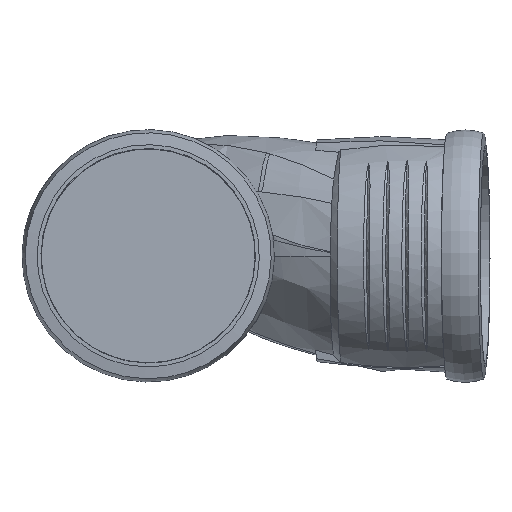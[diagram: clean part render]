
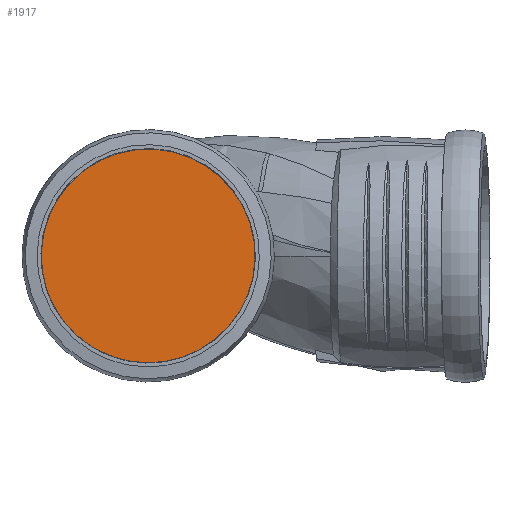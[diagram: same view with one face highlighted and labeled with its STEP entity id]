
A CAD part, top view. The second image highlights one B-rep face of the part: STEP entity #1917.
In plain terms, the highlighted planar face has unit normal (0, 0, 1).
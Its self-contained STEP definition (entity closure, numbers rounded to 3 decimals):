
#95=PLANE('',#2077);
#171=CIRCLE('',#2078,55.5);
#172=CIRCLE('',#2079,55.5);
#348=FACE_OUTER_BOUND('',#472,.T.);
#472=EDGE_LOOP('',(#1524,#1525));
#833=VERTEX_POINT('',#13521);
#834=VERTEX_POINT('',#13522);
#1090=EDGE_CURVE('',#833,#834,#171,.T.);
#1091=EDGE_CURVE('',#834,#833,#172,.T.);
#1524=ORIENTED_EDGE('',*,*,#1090,.T.);
#1525=ORIENTED_EDGE('',*,*,#1091,.T.);
#1917=ADVANCED_FACE('',(#348),#95,.T.);
#2077=AXIS2_PLACEMENT_3D('',#13520,#2334,#2335);
#2078=AXIS2_PLACEMENT_3D('',#13523,#2336,#2337);
#2079=AXIS2_PLACEMENT_3D('',#13524,#2338,#2339);
#2334=DIRECTION('center_axis',(0.,0.,
1.));
#2335=DIRECTION('ref_axis',(1.,0.,0.));
#2336=DIRECTION('center_axis',(0.,0.,1.));
#2337=DIRECTION('ref_axis',(-1.,0.,0.));
#2338=DIRECTION('center_axis',(0.,0.,1.));
#2339=DIRECTION('ref_axis',(-1.,0.,0.));
#13520=CARTESIAN_POINT('Origin',(0.,0.,
55.5));
#13521=CARTESIAN_POINT('',(12.744,-54.017,55.5));
#13522=CARTESIAN_POINT('',(26.608,-48.706,55.5));
#13523=CARTESIAN_POINT('Origin',(0.,0.,55.5));
#13524=CARTESIAN_POINT('Origin',(0.,0.,55.5));
